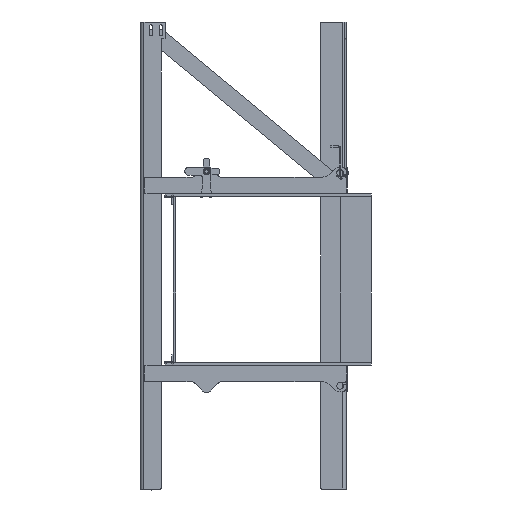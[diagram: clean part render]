
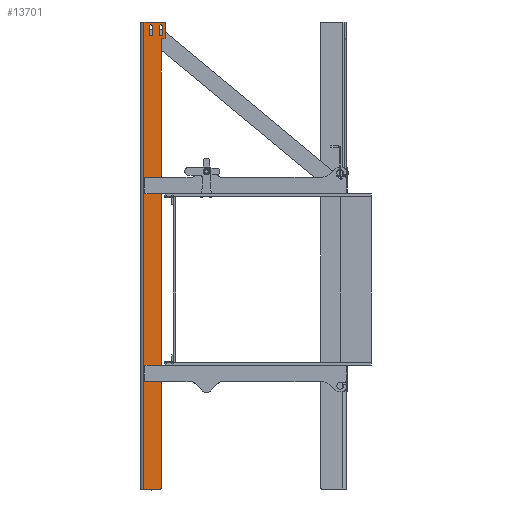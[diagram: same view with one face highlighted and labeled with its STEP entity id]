
A CAD part, left-side view. The second image highlights one B-rep face of the part: STEP entity #13701.
In plain terms, the highlighted planar face has unit normal (-1, 0, 0).
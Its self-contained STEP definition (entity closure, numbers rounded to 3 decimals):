
#208=FACE_BOUND('',#1962,.T.);
#209=FACE_BOUND('',#1963,.T.);
#1193=FACE_OUTER_BOUND('',#1961,.T.);
#1961=EDGE_LOOP('',(#11726,#11727,#11728,#11729,#11730,#11731,#11732,#11733,
#11734,#11735));
#1962=EDGE_LOOP('',(#11736,#11737,#11738,#11739));
#1963=EDGE_LOOP('',(#11740,#11741,#11742,#11743));
#3099=LINE('',#23202,#4279);
#3100=LINE('',#23204,#4280);
#3101=LINE('',#23206,#4281);
#3102=LINE('',#23210,#4282);
#3103=LINE('',#23214,#4283);
#3104=LINE('',#23217,#4284);
#3105=LINE('',#23222,#4285);
#3106=LINE('',#23225,#4286);
#3107=LINE('',#23230,#4287);
#3108=LINE('',#23233,#4288);
#4279=VECTOR('',#18723,10.);
#4280=VECTOR('',#18724,10.);
#4281=VECTOR('',#18725,10.);
#4282=VECTOR('',#18728,10.);
#4283=VECTOR('',#18731,10.);
#4284=VECTOR('',#18734,10.);
#4285=VECTOR('',#18737,10.);
#4286=VECTOR('',#18740,10.);
#4287=VECTOR('',#18743,10.);
#4288=VECTOR('',#18746,10.);
#4974=CIRCLE('',#15064,2.);
#4975=CIRCLE('',#15065,2.);
#4976=CIRCLE('',#15066,4.);
#4977=CIRCLE('',#15067,2.);
#4978=CIRCLE('',#15068,4.5);
#4979=CIRCLE('',#15069,4.5);
#4980=CIRCLE('',#15070,4.5);
#4981=CIRCLE('',#15071,4.5);
#6189=VERTEX_POINT('',#23198);
#6190=VERTEX_POINT('',#23199);
#6191=VERTEX_POINT('',#23201);
#6192=VERTEX_POINT('',#23203);
#6193=VERTEX_POINT('',#23205);
#6194=VERTEX_POINT('',#23207);
#6195=VERTEX_POINT('',#23209);
#6196=VERTEX_POINT('',#23211);
#6197=VERTEX_POINT('',#23213);
#6198=VERTEX_POINT('',#23215);
#6199=VERTEX_POINT('',#23218);
#6200=VERTEX_POINT('',#23219);
#6201=VERTEX_POINT('',#23221);
#6202=VERTEX_POINT('',#23223);
#6203=VERTEX_POINT('',#23226);
#6204=VERTEX_POINT('',#23227);
#6205=VERTEX_POINT('',#23229);
#6206=VERTEX_POINT('',#23231);
#8056=EDGE_CURVE('',#6189,#6190,#4974,.T.);
#8057=EDGE_CURVE('',#6190,#6191,#3099,.T.);
#8058=EDGE_CURVE('',#6191,#6192,#3100,.T.);
#8059=EDGE_CURVE('',#6193,#6192,#3101,.T.);
#8060=EDGE_CURVE('',#6193,#6194,#4975,.T.);
#8061=EDGE_CURVE('',#6194,#6195,#3102,.T.);
#8062=EDGE_CURVE('',#6195,#6196,#4976,.T.);
#8063=EDGE_CURVE('',#6197,#6196,#3103,.T.);
#8064=EDGE_CURVE('',#6197,#6198,#4977,.T.);
#8065=EDGE_CURVE('',#6189,#6198,#3104,.T.);
#8066=EDGE_CURVE('',#6199,#6200,#4978,.T.);
#8067=EDGE_CURVE('',#6201,#6199,#3105,.T.);
#8068=EDGE_CURVE('',#6202,#6201,#4979,.T.);
#8069=EDGE_CURVE('',#6200,#6202,#3106,.T.);
#8070=EDGE_CURVE('',#6203,#6204,#4980,.T.);
#8071=EDGE_CURVE('',#6205,#6203,#3107,.T.);
#8072=EDGE_CURVE('',#6206,#6205,#4981,.T.);
#8073=EDGE_CURVE('',#6204,#6206,#3108,.T.);
#11726=ORIENTED_EDGE('',*,*,#8056,.T.);
#11727=ORIENTED_EDGE('',*,*,#8057,.T.);
#11728=ORIENTED_EDGE('',*,*,#8058,.T.);
#11729=ORIENTED_EDGE('',*,*,#8059,.F.);
#11730=ORIENTED_EDGE('',*,*,#8060,.T.);
#11731=ORIENTED_EDGE('',*,*,#8061,.T.);
#11732=ORIENTED_EDGE('',*,*,#8062,.T.);
#11733=ORIENTED_EDGE('',*,*,#8063,.F.);
#11734=ORIENTED_EDGE('',*,*,#8064,.T.);
#11735=ORIENTED_EDGE('',*,*,#8065,.F.);
#11736=ORIENTED_EDGE('',*,*,#8066,.F.);
#11737=ORIENTED_EDGE('',*,*,#8067,.F.);
#11738=ORIENTED_EDGE('',*,*,#8068,.F.);
#11739=ORIENTED_EDGE('',*,*,#8069,.F.);
#11740=ORIENTED_EDGE('',*,*,#8070,.F.);
#11741=ORIENTED_EDGE('',*,*,#8071,.F.);
#11742=ORIENTED_EDGE('',*,*,#8072,.F.);
#11743=ORIENTED_EDGE('',*,*,#8073,.F.);
#12500=PLANE('',#15063);
#13701=ADVANCED_FACE('',(#1193,#208,#209),#12500,.T.);
#15063=AXIS2_PLACEMENT_3D('',#23197,#18719,#18720);
#15064=AXIS2_PLACEMENT_3D('',#23200,#18721,#18722);
#15065=AXIS2_PLACEMENT_3D('',#23208,#18726,#18727);
#15066=AXIS2_PLACEMENT_3D('',#23212,#18729,#18730);
#15067=AXIS2_PLACEMENT_3D('',#23216,#18732,#18733);
#15068=AXIS2_PLACEMENT_3D('',#23220,#18735,#18736);
#15069=AXIS2_PLACEMENT_3D('',#23224,#18738,#18739);
#15070=AXIS2_PLACEMENT_3D('',#23228,#18741,#18742);
#15071=AXIS2_PLACEMENT_3D('',#23232,#18744,#18745);
#18719=DIRECTION('center_axis',(-1.,0.,0.));
#18720=DIRECTION('ref_axis',(0.,0.,
-1.));
#18721=DIRECTION('center_axis',(-1.,0.,0.));
#18722=DIRECTION('ref_axis',(0.,-0.707,0.707));
#18723=DIRECTION('',(0.,1.,0.));
#18724=DIRECTION('',(0.,0.,-1.));
#18725=DIRECTION('',(0.,1.,0.));
#18726=DIRECTION('center_axis',(-1.,0.,0.));
#18727=DIRECTION('ref_axis',(0.,-0.707,-0.707));
#18728=DIRECTION('',(0.,0.,1.));
#18729=DIRECTION('center_axis',(1.,0.,0.));
#18730=DIRECTION('ref_axis',(0.,0.707,0.707));
#18731=DIRECTION('',(0.,1.,0.));
#18732=DIRECTION('center_axis',(-1.,0.,0.));
#18733=DIRECTION('ref_axis',(0.,-0.707,-0.707));
#18734=DIRECTION('',(0.,0.,-1.));
#18735=DIRECTION('center_axis',(-1.,0.,0.));
#18736=DIRECTION('ref_axis',(0.,-1.,0.));
#18737=DIRECTION('',(0.,0.,-1.));
#18738=DIRECTION('center_axis',(-1.,0.,0.));
#18739=DIRECTION('ref_axis',(0.,1.,0.));
#18740=DIRECTION('',(0.,0.,1.));
#18741=DIRECTION('center_axis',(-1.,0.,0.));
#18742=DIRECTION('ref_axis',(0.,-1.,0.));
#18743=DIRECTION('',(0.,0.,-1.));
#18744=DIRECTION('center_axis',(-1.,0.,0.));
#18745=DIRECTION('ref_axis',(0.,1.,0.));
#18746=DIRECTION('',(0.,0.,1.));
#23197=CARTESIAN_POINT('Origin',(-820.,695.391,-177.5));
#23198=CARTESIAN_POINT('',(-820.,617.5,522.));
#23199=CARTESIAN_POINT('',(-820.,619.5,524.));
#23200=CARTESIAN_POINT('Origin',(-820.,619.5,522.));
#23201=CARTESIAN_POINT('',(-820.,683.25,524.));
#23202=CARTESIAN_POINT('',(-820.,631.1,524.));
#23203=CARTESIAN_POINT('',(-820.,683.25,-879.));
#23204=CARTESIAN_POINT('',(-820.,683.25,-177.5));
#23205=CARTESIAN_POINT('',(-820.,633.1,-879.));
#23206=CARTESIAN_POINT('',(-820.,631.1,-879.));
#23207=CARTESIAN_POINT('',(-820.,631.1,-877.));
#23208=CARTESIAN_POINT('Origin',(-820.,633.1,-877.));
#23209=CARTESIAN_POINT('',(-820.,631.1,470.));
#23210=CARTESIAN_POINT('',(-820.,631.1,-879.));
#23211=CARTESIAN_POINT('',(-820.,627.1,474.));
#23212=CARTESIAN_POINT('Origin',(-820.,627.1,470.));
#23213=CARTESIAN_POINT('',(-820.,619.5,474.));
#23214=CARTESIAN_POINT('',(-820.,617.5,474.));
#23215=CARTESIAN_POINT('',(-820.,617.5,476.));
#23216=CARTESIAN_POINT('Origin',(-820.,619.5,476.));
#23217=CARTESIAN_POINT('',(-820.,617.5,524.));
#23218=CARTESIAN_POINT('',(-820.,637.,486.5));
#23219=CARTESIAN_POINT('',(-820.,628.,486.5));
#23220=CARTESIAN_POINT('Origin',(-820.,632.5,486.5));
#23221=CARTESIAN_POINT('',(-820.,637.,511.5));
#23222=CARTESIAN_POINT('',(-820.,637.,167.));
#23223=CARTESIAN_POINT('',(-820.,628.,511.5));
#23224=CARTESIAN_POINT('Origin',(-820.,632.5,511.5));
#23225=CARTESIAN_POINT('',(-820.,628.,154.5));
#23226=CARTESIAN_POINT('',(-820.,667.,486.5));
#23227=CARTESIAN_POINT('',(-820.,658.,486.5));
#23228=CARTESIAN_POINT('Origin',(-820.,662.5,486.5));
#23229=CARTESIAN_POINT('',(-820.,667.,511.5));
#23230=CARTESIAN_POINT('',(-820.,667.,167.));
#23231=CARTESIAN_POINT('',(-820.,658.,511.5));
#23232=CARTESIAN_POINT('Origin',(-820.,662.5,511.5));
#23233=CARTESIAN_POINT('',(-820.,658.,154.5));
